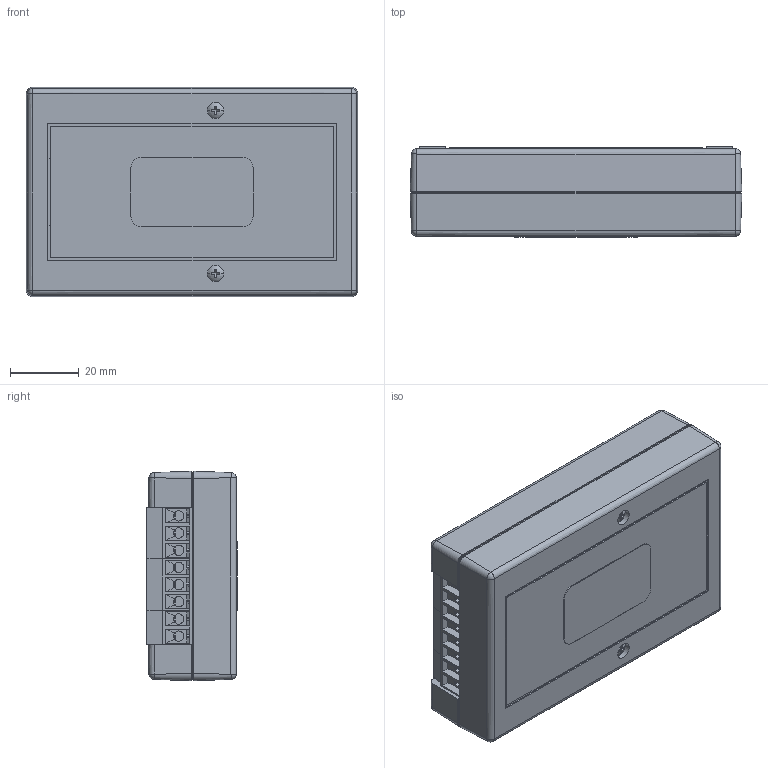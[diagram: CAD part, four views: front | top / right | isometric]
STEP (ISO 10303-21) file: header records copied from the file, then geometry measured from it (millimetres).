
FILE_DESCRIPTION (( 'STEP AP214' ), '1' );
FILE_NAME ('485OP.STEP', '2018-06-04T18:48:34', ( '' ), ( '' ), 'SwSTEP 2.0', 'SolidWorks 2016', '' );
FILE_SCHEMA (( 'AUTOMOTIVE_DESIGN' ));
Length unit declared in the file: inch
Products named in the file (11): 485OP; truss head screw_ai_CR-THMS 0.086-56x0.625x0.625-S; 9495 UL Label; 250-10700-00 Front Label; 1939 3 POS Terminal Block; 1820 2 POS Terminal Block; 1002 Red LED; 3818 PCB; 9527 Assembly; 9527 Top; 9527 Bottom
Assembly tree (15 placements, depth 3):
  485OP
    9527 Assembly
      9527 Bottom
      9527 Top
    3818 PCB
    1002 Red LED  x2
    1820 2 POS Terminal Block
    1939 3 POS Terminal Block  x4
    250-10700-00 Front Label
    9495 UL Label
    truss head screw_ai_CR-THMS 0.086-56x0.625x0.625-S  x2
Bounding box: 96.52 x 26.24 x 60.96 mm (x, y, z)
Volume: 52607.4 mm3; surface area: 65018.1 mm2
Topology: 14 solids, 14 shells, 1660 faces, 4513 edges, 2918 vertices
Faces by surface type: plane 907, cylinder 343, cone 314, torus 42, bspline 38, sphere 16
Entity records: 32654 total; most frequent: CARTESIAN_POINT 6735, ORIENTED_EDGE 4904, DIRECTION 4673, EDGE_CURVE 2452, VERTEX_POINT 1592, LINE 1569, VECTOR 1569, AXIS2_PLACEMENT_3D 1552
